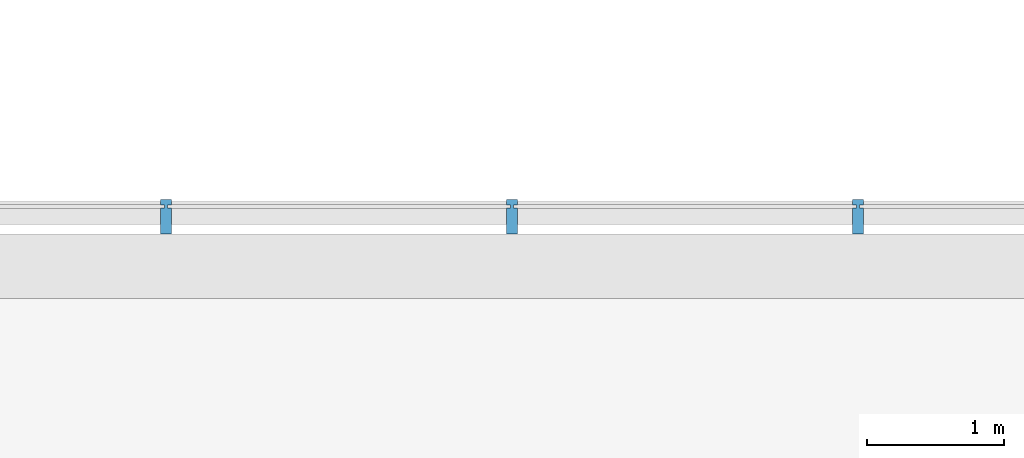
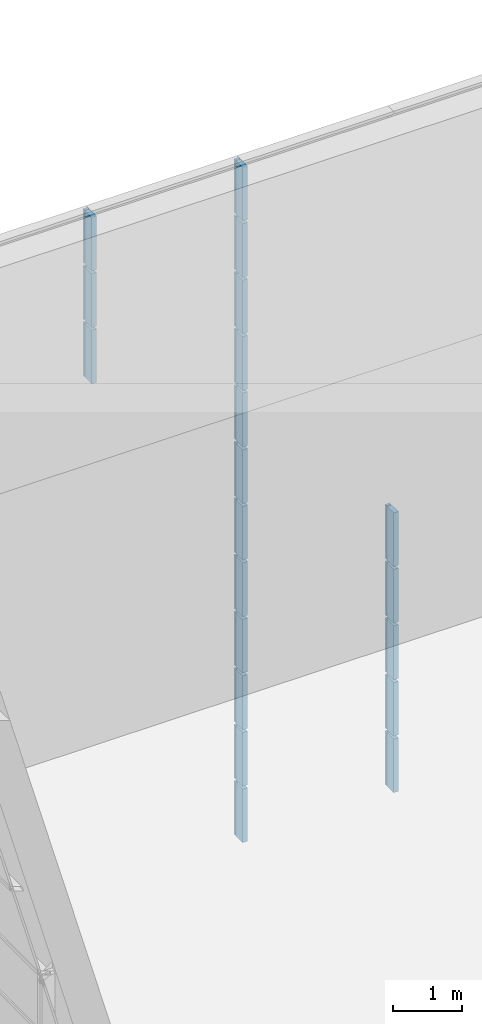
# One storey, part 86 of 105: 20 building element parts, 4 elements without a shape of their own.
"""IFC4 building model written with IfcOpenShell, lengths in millimetres."""

from ifc_helpers import new_model, entity, si_unit, converted_unit, derived_unit, direction, frame, origin_with_axes, place, context, subcontext, project, spatial, triangles, material, element, aggregate, save


model = new_model("IFC4")

# Units and contexts
model_context = context("Model", 3, precision=1e-05, world=origin_with_axes(), true_north=direction((0.0, 1.0)))
body_context = subcontext(model_context, "Body", "Model", "MODEL_VIEW")
ifc_project = project(units=[si_unit("LENGTHUNIT", "METRE", prefix="MILLI"), si_unit("AREAUNIT", "SQUARE_METRE"), si_unit("VOLUMEUNIT", "CUBIC_METRE"), converted_unit("PLANEANGLEUNIT", "DEGREE", entity("IfcLengthMeasure", 0.017453), si_unit("PLANEANGLEUNIT", "RADIAN"), dimensions=[0, 0, 0, 0, 0, 0, 0]), si_unit("SOLIDANGLEUNIT", "STERADIAN"), si_unit("MASSUNIT", "GRAM"), si_unit("TIMEUNIT", "SECOND"), si_unit("THERMODYNAMICTEMPERATUREUNIT", "DEGREE_CELSIUS"), si_unit("LUMINOUSINTENSITYUNIT", "LUMEN"), si_unit("POWERUNIT", "WATT"), derived_unit("THERMALTRANSMITTANCEUNIT", [(si_unit("POWERUNIT", "WATT"), 1), (si_unit("THERMODYNAMICTEMPERATUREUNIT", "KELVIN"), -1), (si_unit("AREAUNIT", "SQUARE_METRE"), -1)])], contexts=[model_context])

# Site, building, storey
site_placement = place(None, origin_with_axes())
site = spatial("IfcSite", under=ifc_project, at=site_placement, Name="Default Site", CompositionType="ELEMENT")
building_placement = place(site_placement, origin_with_axes())
building = spatial("IfcBuilding", under=site, at=building_placement, Name="Default Building", CompositionType="ELEMENT")
storey_placement = place(building_placement, origin_with_axes())
storey = spatial("IfcBuildingStorey", under=building, at=storey_placement, Name="OG - Story", CompositionType="ELEMENT", Elevation=0.0)

# Curtain wall, building element parts
curtain_wall_1_placement = place(storey_placement, origin_with_axes())
curtain_wall_1 = element("IfcCurtainWall", 1, at=curtain_wall_1_placement, inside=storey, Name="Fassade-004", PredefinedType="NOTDEFINED")
ifc_material = material(Name="Blech")
building_element_part_1_placement = place(curtain_wall_1_placement, frame((33014.549222, -4389.262838, 0.0), z_axis=(0.0, 0.0, 1.0), x_axis=(1.0, 0.0, 0.0)))
building_element_part_1 = element("IfcBuildingElementPart", 2, at=building_element_part_1_placement, material=ifc_material, Name="Blech", PredefinedType="NOTDEFINED", context=body_context, shape_type="Tessellation", body=[
    triangles([(6355.789, -9.999, 975.0), (6355.789, -199.999, 975.0), (6325.789, -9.999, 975.0), (6305.789, -9.999, 975.0), (6325.789, 10.0, 975.0), (6355.789, 50.0, 975.0), (6355.789, 10.0, 975.0), (6275.789, -199.999, 975.0), (6275.789, -9.999, 975.0), (6305.789, 10.0, 975.0), (6275.789, 10.0, 975.0), (6275.789, 50.0, 975.0), (6325.789, -9.999, 25.0), (6325.789, 10.0, 25.0), (6355.789, 10.0, 25.0), (6355.789, 50.0, 25.0), (6275.789, 50.0, 25.0), (6275.789, 10.0, 25.0), (6305.789, 10.0, 25.0), (6305.789, -9.999, 25.0), (6275.789, -9.999, 25.0), (6275.789, -199.999, 25.0), (6355.789, -199.999, 25.0), (6355.789, -9.999, 25.0)], [[1, 2, 3], [3, 2, 4], [3, 4, 5], [5, 4, 6], [5, 6, 7], [8, 9, 4], [8, 4, 2], [6, 4, 10], [6, 10, 11], [6, 11, 12], [3, 13, 14], [3, 14, 5], [5, 14, 15], [5, 15, 7], [15, 16, 6], [15, 6, 7], [12, 6, 16], [12, 16, 17], [18, 11, 12], [18, 12, 17], [11, 18, 19], [11, 19, 10], [4, 10, 19], [4, 19, 20], [9, 4, 20], [9, 20, 21], [9, 21, 22], [9, 22, 8], [2, 8, 22], [2, 22, 23], [1, 2, 23], [1, 23, 24], [1, 24, 13], [1, 13, 3], [15, 16, 14], [14, 16, 19], [14, 19, 13], [13, 19, 23], [13, 23, 24], [17, 18, 19], [17, 19, 16], [23, 19, 20], [23, 20, 21], [23, 21, 22]], closed=False),
])
building_element_part_2_placement = place(curtain_wall_1_placement, frame((33014.549222, -4389.262838, 0.0), z_axis=(0.0, 0.0, 1.0), x_axis=(1.0, 0.0, 0.0)))
building_element_part_2 = element("IfcBuildingElementPart", 3, at=building_element_part_2_placement, material=ifc_material, Name="Blech", PredefinedType="NOTDEFINED", context=body_context, shape_type="Tessellation", body=[
    triangles([(8882.105, -9.999, 975.0), (8882.105, -199.999, 975.0), (8852.105, -9.999, 975.0), (8832.105, -9.999, 975.0), (8852.105, 10.0, 975.0), (8882.105, 50.0, 975.0), (8882.105, 10.0, 975.0), (8802.105, -199.999, 975.0), (8802.105, -9.999, 975.0), (8832.105, 10.0, 975.0), (8802.105, 10.0, 975.0), (8802.105, 50.0, 975.0), (8852.105, -9.999, 25.0), (8852.105, 10.0, 25.0), (8882.105, 10.0, 25.0), (8882.105, 50.0, 25.0), (8802.105, 50.0, 25.0), (8802.105, 10.0, 25.0), (8832.105, 10.0, 25.0), (8832.105, -9.999, 25.0), (8802.105, -9.999, 25.0), (8802.105, -199.999, 25.0), (8882.105, -199.999, 25.0), (8882.105, -9.999, 25.0)], [[1, 2, 3], [3, 2, 4], [3, 4, 5], [5, 4, 6], [5, 6, 7], [8, 9, 4], [8, 4, 2], [6, 4, 10], [6, 10, 11], [6, 11, 12], [3, 13, 14], [3, 14, 5], [5, 14, 15], [5, 15, 7], [15, 16, 6], [15, 6, 7], [12, 6, 16], [12, 16, 17], [18, 11, 12], [18, 12, 17], [11, 18, 19], [11, 19, 10], [4, 10, 19], [4, 19, 20], [9, 4, 20], [9, 20, 21], [9, 21, 22], [9, 22, 8], [2, 8, 22], [2, 22, 23], [1, 2, 23], [1, 23, 24], [1, 24, 13], [1, 13, 3], [15, 16, 14], [14, 16, 19], [14, 19, 13], [13, 19, 23], [13, 23, 24], [17, 18, 19], [17, 19, 16], [23, 19, 20], [23, 20, 21], [23, 21, 22]], closed=False),
])
building_element_part_3_placement = place(curtain_wall_1_placement, frame((33014.549222, -4389.262838, 0.0), z_axis=(0.0, 0.0, 1.0), x_axis=(1.0, 0.0, 0.0)))
building_element_part_3 = element("IfcBuildingElementPart", 4, at=building_element_part_3_placement, material=ifc_material, Name="Blech", PredefinedType="NOTDEFINED", context=body_context, shape_type="Tessellation", body=[
    triangles([(6355.789, -9.999, 1975.0), (6355.789, -199.999, 1975.0), (6325.789, -9.999, 1975.0), (6305.789, -9.999, 1975.0), (6325.789, 10.0, 1975.0), (6355.789, 50.0, 1975.0), (6355.789, 10.0, 1975.0), (6275.789, -199.999, 1975.0), (6275.789, -9.999, 1975.0), (6305.789, 10.0, 1975.0), (6275.789, 10.0, 1975.0), (6275.789, 50.0, 1975.0), (6325.789, -9.999, 1025.0), (6325.789, 10.0, 1025.0), (6355.789, 10.0, 1025.0), (6355.789, 50.0, 1025.0), (6275.789, 50.0, 1025.0), (6275.789, 10.0, 1025.0), (6305.789, 10.0, 1025.0), (6305.789, -9.999, 1025.0), (6275.789, -9.999, 1025.0), (6275.789, -199.999, 1025.0), (6355.789, -199.999, 1025.0), (6355.789, -9.999, 1025.0)], [[1, 2, 3], [3, 2, 4], [3, 4, 5], [5, 4, 6], [5, 6, 7], [8, 9, 4], [8, 4, 2], [6, 4, 10], [6, 10, 11], [6, 11, 12], [3, 13, 14], [3, 14, 5], [5, 14, 15], [5, 15, 7], [15, 16, 6], [15, 6, 7], [12, 6, 16], [12, 16, 17], [18, 11, 12], [18, 12, 17], [11, 18, 19], [11, 19, 10], [4, 10, 19], [4, 19, 20], [9, 4, 20], [9, 20, 21], [9, 21, 22], [9, 22, 8], [2, 8, 22], [2, 22, 23], [1, 2, 23], [1, 23, 24], [1, 24, 13], [1, 13, 3], [15, 16, 14], [14, 16, 19], [14, 19, 13], [13, 19, 23], [13, 23, 24], [17, 18, 19], [17, 19, 16], [23, 19, 20], [23, 20, 21], [23, 21, 22]], closed=False),
])
building_element_part_4_placement = place(curtain_wall_1_placement, frame((33014.549222, -4389.262838, 0.0), z_axis=(0.0, 0.0, 1.0), x_axis=(1.0, 0.0, 0.0)))
building_element_part_4 = element("IfcBuildingElementPart", 5, at=building_element_part_4_placement, material=ifc_material, Name="Blech", PredefinedType="NOTDEFINED", context=body_context, shape_type="Tessellation", body=[
    triangles([(8882.105, -9.999, 1975.0), (8882.105, -199.999, 1975.0), (8852.105, -9.999, 1975.0), (8832.105, -9.999, 1975.0), (8852.105, 10.0, 1975.0), (8882.105, 50.0, 1975.0), (8882.105, 10.0, 1975.0), (8802.105, -199.999, 1975.0), (8802.105, -9.999, 1975.0), (8832.105, 10.0, 1975.0), (8802.105, 10.0, 1975.0), (8802.105, 50.0, 1975.0), (8852.105, -9.999, 1025.0), (8852.105, 10.0, 1025.0), (8882.105, 10.0, 1025.0), (8882.105, 50.0, 1025.0), (8802.105, 50.0, 1025.0), (8802.105, 10.0, 1025.0), (8832.105, 10.0, 1025.0), (8832.105, -9.999, 1025.0), (8802.105, -9.999, 1025.0), (8802.105, -199.999, 1025.0), (8882.105, -199.999, 1025.0), (8882.105, -9.999, 1025.0)], [[1, 2, 3], [3, 2, 4], [3, 4, 5], [5, 4, 6], [5, 6, 7], [8, 9, 4], [8, 4, 2], [6, 4, 10], [6, 10, 11], [6, 11, 12], [3, 13, 14], [3, 14, 5], [5, 14, 15], [5, 15, 7], [15, 16, 6], [15, 6, 7], [12, 6, 16], [12, 16, 17], [18, 11, 12], [18, 12, 17], [11, 18, 19], [11, 19, 10], [4, 10, 19], [4, 19, 20], [9, 4, 20], [9, 20, 21], [9, 21, 22], [9, 22, 8], [2, 8, 22], [2, 22, 23], [1, 2, 23], [1, 23, 24], [1, 24, 13], [1, 13, 3], [15, 16, 14], [14, 16, 19], [14, 19, 13], [13, 19, 23], [13, 23, 24], [17, 18, 19], [17, 19, 16], [23, 19, 20], [23, 20, 21], [23, 21, 22]], closed=False),
])
building_element_part_5_placement = place(curtain_wall_1_placement, frame((33014.549222, -4389.262838, 0.0), z_axis=(0.0, 0.0, 1.0), x_axis=(1.0, 0.0, 0.0)))
building_element_part_5 = element("IfcBuildingElementPart", 6, at=building_element_part_5_placement, material=ifc_material, Name="Blech", PredefinedType="NOTDEFINED", context=body_context, shape_type="Tessellation", body=[
    triangles([(6355.789, -9.999, 2975.0), (6355.789, -199.999, 2975.0), (6325.789, -9.999, 2975.0), (6305.789, -9.999, 2975.0), (6325.789, 10.0, 2975.0), (6355.789, 50.0, 2975.0), (6355.789, 10.0, 2975.0), (6275.789, -199.999, 2975.0), (6275.789, -9.999, 2975.0), (6305.789, 10.0, 2975.0), (6275.789, 10.0, 2975.0), (6275.789, 50.0, 2975.0), (6325.789, -9.999, 2025.0), (6325.789, 10.0, 2025.0), (6355.789, 10.0, 2025.0), (6355.789, 50.0, 2025.0), (6275.789, 50.0, 2025.0), (6275.789, 10.0, 2025.0), (6305.789, 10.0, 2025.0), (6305.789, -9.999, 2025.0), (6275.789, -9.999, 2025.0), (6275.789, -199.999, 2025.0), (6355.789, -199.999, 2025.0), (6355.789, -9.999, 2025.0)], [[1, 2, 3], [3, 2, 4], [3, 4, 5], [5, 4, 6], [5, 6, 7], [8, 9, 4], [8, 4, 2], [6, 4, 10], [6, 10, 11], [6, 11, 12], [3, 13, 14], [3, 14, 5], [5, 14, 15], [5, 15, 7], [15, 16, 6], [15, 6, 7], [12, 6, 16], [12, 16, 17], [18, 11, 12], [18, 12, 17], [11, 18, 19], [11, 19, 10], [4, 10, 19], [4, 19, 20], [9, 4, 20], [9, 20, 21], [9, 21, 22], [9, 22, 8], [2, 8, 22], [2, 22, 23], [1, 2, 23], [1, 23, 24], [1, 24, 13], [1, 13, 3], [15, 16, 14], [14, 16, 19], [14, 19, 13], [13, 19, 23], [13, 23, 24], [17, 18, 19], [17, 19, 16], [23, 19, 20], [23, 20, 21], [23, 21, 22]], closed=False),
])
building_element_part_6_placement = place(curtain_wall_1_placement, frame((33014.549222, -4389.262838, 0.0), z_axis=(0.0, 0.0, 1.0), x_axis=(1.0, 0.0, 0.0)))
building_element_part_6 = element("IfcBuildingElementPart", 7, at=building_element_part_6_placement, material=ifc_material, Name="Blech", PredefinedType="NOTDEFINED", context=body_context, shape_type="Tessellation", body=[
    triangles([(8882.105, -9.999, 2975.0), (8882.105, -199.999, 2975.0), (8852.105, -9.999, 2975.0), (8832.105, -9.999, 2975.0), (8852.105, 10.0, 2975.0), (8882.105, 50.0, 2975.0), (8882.105, 10.0, 2975.0), (8802.105, -199.999, 2975.0), (8802.105, -9.999, 2975.0), (8832.105, 10.0, 2975.0), (8802.105, 10.0, 2975.0), (8802.105, 50.0, 2975.0), (8852.105, -9.999, 2025.0), (8852.105, 10.0, 2025.0), (8882.105, 10.0, 2025.0), (8882.105, 50.0, 2025.0), (8802.105, 50.0, 2025.0), (8802.105, 10.0, 2025.0), (8832.105, 10.0, 2025.0), (8832.105, -9.999, 2025.0), (8802.105, -9.999, 2025.0), (8802.105, -199.999, 2025.0), (8882.105, -199.999, 2025.0), (8882.105, -9.999, 2025.0)], [[1, 2, 3], [3, 2, 4], [3, 4, 5], [5, 4, 6], [5, 6, 7], [8, 9, 4], [8, 4, 2], [6, 4, 10], [6, 10, 11], [6, 11, 12], [3, 13, 14], [3, 14, 5], [5, 14, 15], [5, 15, 7], [15, 16, 6], [15, 6, 7], [12, 6, 16], [12, 16, 17], [18, 11, 12], [18, 12, 17], [11, 18, 19], [11, 19, 10], [4, 10, 19], [4, 19, 20], [9, 4, 20], [9, 20, 21], [9, 21, 22], [9, 22, 8], [2, 8, 22], [2, 22, 23], [1, 2, 23], [1, 23, 24], [1, 24, 13], [1, 13, 3], [15, 16, 14], [14, 16, 19], [14, 19, 13], [13, 19, 23], [13, 23, 24], [17, 18, 19], [17, 19, 16], [23, 19, 20], [23, 20, 21], [23, 21, 22]], closed=False),
])
aggregate(curtain_wall_1, [building_element_part_1, building_element_part_2, building_element_part_3, building_element_part_4, building_element_part_5, building_element_part_6])

curtain_wall_2_placement = place(storey_placement, origin_with_axes())
curtain_wall_2 = element("IfcCurtainWall", 8, at=curtain_wall_2_placement, inside=storey, Name="Fassade-004", PredefinedType="NOTDEFINED")
building_element_part_7_placement = place(curtain_wall_2_placement, frame((33014.549222, -4389.262838, 3000.0), z_axis=(0.0, 0.0, 1.0), x_axis=(1.0, 0.0, 0.0)))
building_element_part_7 = element("IfcBuildingElementPart", 9, at=building_element_part_7_placement, material=ifc_material, Name="Blech", PredefinedType="NOTDEFINED", context=body_context, shape_type="Tessellation", body=[
    triangles([(6355.789, -9.999, 975.0), (6355.789, -199.999, 975.0), (6325.789, -9.999, 975.0), (6305.789, -9.999, 975.0), (6325.789, 10.0, 975.0), (6355.789, 50.0, 975.0), (6355.789, 10.0, 975.0), (6275.789, -199.999, 975.0), (6275.789, -9.999, 975.0), (6305.789, 10.0, 975.0), (6275.789, 10.0, 975.0), (6275.789, 50.0, 975.0), (6325.789, -9.999, 25.0), (6325.789, 10.0, 25.0), (6355.789, 10.0, 25.0), (6355.789, 50.0, 25.0), (6275.789, 50.0, 25.0), (6275.789, 10.0, 25.0), (6305.789, 10.0, 25.0), (6305.789, -9.999, 25.0), (6275.789, -9.999, 25.0), (6275.789, -199.999, 25.0), (6355.789, -199.999, 25.0), (6355.789, -9.999, 25.0)], [[1, 2, 3], [3, 2, 4], [3, 4, 5], [5, 4, 6], [5, 6, 7], [8, 9, 4], [8, 4, 2], [6, 4, 10], [6, 10, 11], [6, 11, 12], [3, 13, 14], [3, 14, 5], [5, 14, 15], [5, 15, 7], [15, 16, 6], [15, 6, 7], [12, 6, 16], [12, 16, 17], [18, 11, 12], [18, 12, 17], [11, 18, 19], [11, 19, 10], [4, 10, 19], [4, 19, 20], [9, 4, 20], [9, 20, 21], [9, 21, 22], [9, 22, 8], [2, 8, 22], [2, 22, 23], [1, 2, 23], [1, 23, 24], [1, 24, 13], [1, 13, 3], [15, 16, 14], [14, 16, 19], [14, 19, 13], [13, 19, 23], [13, 23, 24], [17, 18, 19], [17, 19, 16], [23, 19, 20], [23, 20, 21], [23, 21, 22]], closed=False),
])
building_element_part_8_placement = place(curtain_wall_2_placement, frame((33014.549222, -4389.262838, 3000.0), z_axis=(0.0, 0.0, 1.0), x_axis=(1.0, 0.0, 0.0)))
building_element_part_8 = element("IfcBuildingElementPart", 10, at=building_element_part_8_placement, material=ifc_material, Name="Blech", PredefinedType="NOTDEFINED", context=body_context, shape_type="Tessellation", body=[
    triangles([(8882.105, -9.999, 975.0), (8882.105, -199.999, 975.0), (8852.105, -9.999, 975.0), (8832.105, -9.999, 975.0), (8852.105, 10.0, 975.0), (8882.105, 50.0, 975.0), (8882.105, 10.0, 975.0), (8802.105, -199.999, 975.0), (8802.105, -9.999, 975.0), (8832.105, 10.0, 975.0), (8802.105, 10.0, 975.0), (8802.105, 50.0, 975.0), (8852.105, -9.999, 25.0), (8852.105, 10.0, 25.0), (8882.105, 10.0, 25.0), (8882.105, 50.0, 25.0), (8802.105, 50.0, 25.0), (8802.105, 10.0, 25.0), (8832.105, 10.0, 25.0), (8832.105, -9.999, 25.0), (8802.105, -9.999, 25.0), (8802.105, -199.999, 25.0), (8882.105, -199.999, 25.0), (8882.105, -9.999, 25.0)], [[1, 2, 3], [3, 2, 4], [3, 4, 5], [5, 4, 6], [5, 6, 7], [8, 9, 4], [8, 4, 2], [6, 4, 10], [6, 10, 11], [6, 11, 12], [3, 13, 14], [3, 14, 5], [5, 14, 15], [5, 15, 7], [15, 16, 6], [15, 6, 7], [12, 6, 16], [12, 16, 17], [18, 11, 12], [18, 12, 17], [11, 18, 19], [11, 19, 10], [4, 10, 19], [4, 19, 20], [9, 4, 20], [9, 20, 21], [9, 21, 22], [9, 22, 8], [2, 8, 22], [2, 22, 23], [1, 2, 23], [1, 23, 24], [1, 24, 13], [1, 13, 3], [15, 16, 14], [14, 16, 19], [14, 19, 13], [13, 19, 23], [13, 23, 24], [17, 18, 19], [17, 19, 16], [23, 19, 20], [23, 20, 21], [23, 21, 22]], closed=False),
])
building_element_part_9_placement = place(curtain_wall_2_placement, frame((33014.549222, -4389.262838, 3000.0), z_axis=(0.0, 0.0, 1.0), x_axis=(1.0, 0.0, 0.0)))
building_element_part_9 = element("IfcBuildingElementPart", 11, at=building_element_part_9_placement, material=ifc_material, Name="Blech", PredefinedType="NOTDEFINED", context=body_context, shape_type="Tessellation", body=[
    triangles([(6355.789, -9.999, 1975.0), (6355.789, -199.999, 1975.0), (6325.789, -9.999, 1975.0), (6305.789, -9.999, 1975.0), (6325.789, 10.0, 1975.0), (6355.789, 50.0, 1975.0), (6355.789, 10.0, 1975.0), (6275.789, -199.999, 1975.0), (6275.789, -9.999, 1975.0), (6305.789, 10.0, 1975.0), (6275.789, 10.0, 1975.0), (6275.789, 50.0, 1975.0), (6325.789, -9.999, 1025.0), (6325.789, 10.0, 1025.0), (6355.789, 10.0, 1025.0), (6355.789, 50.0, 1025.0), (6275.789, 50.0, 1025.0), (6275.789, 10.0, 1025.0), (6305.789, 10.0, 1025.0), (6305.789, -9.999, 1025.0), (6275.789, -9.999, 1025.0), (6275.789, -199.999, 1025.0), (6355.789, -199.999, 1025.0), (6355.789, -9.999, 1025.0)], [[1, 2, 3], [3, 2, 4], [3, 4, 5], [5, 4, 6], [5, 6, 7], [8, 9, 4], [8, 4, 2], [6, 4, 10], [6, 10, 11], [6, 11, 12], [3, 13, 14], [3, 14, 5], [5, 14, 15], [5, 15, 7], [15, 16, 6], [15, 6, 7], [12, 6, 16], [12, 16, 17], [18, 11, 12], [18, 12, 17], [11, 18, 19], [11, 19, 10], [4, 10, 19], [4, 19, 20], [9, 4, 20], [9, 20, 21], [9, 21, 22], [9, 22, 8], [2, 8, 22], [2, 22, 23], [1, 2, 23], [1, 23, 24], [1, 24, 13], [1, 13, 3], [15, 16, 14], [14, 16, 19], [14, 19, 13], [13, 19, 23], [13, 23, 24], [17, 18, 19], [17, 19, 16], [23, 19, 20], [23, 20, 21], [23, 21, 22]], closed=False),
])
building_element_part_10_placement = place(curtain_wall_2_placement, frame((33014.549222, -4389.262838, 3000.0), z_axis=(0.0, 0.0, 1.0), x_axis=(1.0, 0.0, 0.0)))
building_element_part_10 = element("IfcBuildingElementPart", 12, at=building_element_part_10_placement, material=ifc_material, Name="Blech", PredefinedType="NOTDEFINED", context=body_context, shape_type="Tessellation", body=[
    triangles([(8882.105, -9.999, 1975.0), (8882.105, -199.999, 1975.0), (8852.105, -9.999, 1975.0), (8832.105, -9.999, 1975.0), (8852.105, 10.0, 1975.0), (8882.105, 50.0, 1975.0), (8882.105, 10.0, 1975.0), (8802.105, -199.999, 1975.0), (8802.105, -9.999, 1975.0), (8832.105, 10.0, 1975.0), (8802.105, 10.0, 1975.0), (8802.105, 50.0, 1975.0), (8852.105, -9.999, 1025.0), (8852.105, 10.0, 1025.0), (8882.105, 10.0, 1025.0), (8882.105, 50.0, 1025.0), (8802.105, 50.0, 1025.0), (8802.105, 10.0, 1025.0), (8832.105, 10.0, 1025.0), (8832.105, -9.999, 1025.0), (8802.105, -9.999, 1025.0), (8802.105, -199.999, 1025.0), (8882.105, -199.999, 1025.0), (8882.105, -9.999, 1025.0)], [[1, 2, 3], [3, 2, 4], [3, 4, 5], [5, 4, 6], [5, 6, 7], [8, 9, 4], [8, 4, 2], [6, 4, 10], [6, 10, 11], [6, 11, 12], [3, 13, 14], [3, 14, 5], [5, 14, 15], [5, 15, 7], [15, 16, 6], [15, 6, 7], [12, 6, 16], [12, 16, 17], [18, 11, 12], [18, 12, 17], [11, 18, 19], [11, 19, 10], [4, 10, 19], [4, 19, 20], [9, 4, 20], [9, 20, 21], [9, 21, 22], [9, 22, 8], [2, 8, 22], [2, 22, 23], [1, 2, 23], [1, 23, 24], [1, 24, 13], [1, 13, 3], [15, 16, 14], [14, 16, 19], [14, 19, 13], [13, 19, 23], [13, 23, 24], [17, 18, 19], [17, 19, 16], [23, 19, 20], [23, 20, 21], [23, 21, 22]], closed=False),
])
building_element_part_11_placement = place(curtain_wall_2_placement, frame((33014.549222, -4389.262838, 3000.0), z_axis=(0.0, 0.0, 1.0), x_axis=(1.0, 0.0, 0.0)))
building_element_part_11 = element("IfcBuildingElementPart", 13, at=building_element_part_11_placement, material=ifc_material, Name="Blech", PredefinedType="NOTDEFINED", context=body_context, shape_type="Tessellation", body=[
    triangles([(6355.789, -9.999, 2975.0), (6355.789, -199.999, 2975.0), (6325.789, -9.999, 2975.0), (6305.789, -9.999, 2975.0), (6325.789, 10.0, 2975.0), (6355.789, 50.0, 2975.0), (6355.789, 10.0, 2975.0), (6275.789, -199.999, 2975.0), (6275.789, -9.999, 2975.0), (6305.789, 10.0, 2975.0), (6275.789, 10.0, 2975.0), (6275.789, 50.0, 2975.0), (6325.789, -9.999, 2025.0), (6325.789, 10.0, 2025.0), (6355.789, 10.0, 2025.0), (6355.789, 50.0, 2025.0), (6275.789, 50.0, 2025.0), (6275.789, 10.0, 2025.0), (6305.789, 10.0, 2025.0), (6305.789, -9.999, 2025.0), (6275.789, -9.999, 2025.0), (6275.789, -199.999, 2025.0), (6355.789, -199.999, 2025.0), (6355.789, -9.999, 2025.0)], [[1, 2, 3], [3, 2, 4], [3, 4, 5], [5, 4, 6], [5, 6, 7], [8, 9, 4], [8, 4, 2], [6, 4, 10], [6, 10, 11], [6, 11, 12], [3, 13, 14], [3, 14, 5], [5, 14, 15], [5, 15, 7], [15, 16, 6], [15, 6, 7], [12, 6, 16], [12, 16, 17], [18, 11, 12], [18, 12, 17], [11, 18, 19], [11, 19, 10], [4, 10, 19], [4, 19, 20], [9, 4, 20], [9, 20, 21], [9, 21, 22], [9, 22, 8], [2, 8, 22], [2, 22, 23], [1, 2, 23], [1, 23, 24], [1, 24, 13], [1, 13, 3], [15, 16, 14], [14, 16, 19], [14, 19, 13], [13, 19, 23], [13, 23, 24], [17, 18, 19], [17, 19, 16], [23, 19, 20], [23, 20, 21], [23, 21, 22]], closed=False),
])
aggregate(curtain_wall_2, [building_element_part_7, building_element_part_8, building_element_part_9, building_element_part_10, building_element_part_11])

curtain_wall_3_placement = place(storey_placement, origin_with_axes())
curtain_wall_3 = element("IfcCurtainWall", 14, at=curtain_wall_3_placement, inside=storey, Name="Fassade-004", PredefinedType="NOTDEFINED")
building_element_part_12_placement = place(curtain_wall_3_placement, frame((33014.549222, -4389.262838, 6000.0), z_axis=(0.0, 0.0, 1.0), x_axis=(1.0, 0.0, 0.0)))
building_element_part_12 = element("IfcBuildingElementPart", 15, at=building_element_part_12_placement, material=ifc_material, Name="Blech", PredefinedType="NOTDEFINED", context=body_context, shape_type="Tessellation", body=[
    triangles([(6355.789, -9.999, 975.0), (6355.789, -199.999, 975.0), (6325.789, -9.999, 975.0), (6305.789, -9.999, 975.0), (6325.789, 10.0, 975.0), (6355.789, 50.0, 975.0), (6355.789, 10.0, 975.0), (6275.789, -199.999, 975.0), (6275.789, -9.999, 975.0), (6305.789, 10.0, 975.0), (6275.789, 10.0, 975.0), (6275.789, 50.0, 975.0), (6325.789, -9.999, 25.0), (6325.789, 10.0, 25.0), (6355.789, 10.0, 25.0), (6355.789, 50.0, 25.0), (6275.789, 50.0, 25.0), (6275.789, 10.0, 25.0), (6305.789, 10.0, 25.0), (6305.789, -9.999, 25.0), (6275.789, -9.999, 25.0), (6275.789, -199.999, 25.0), (6355.789, -199.999, 25.0), (6355.789, -9.999, 25.0)], [[1, 2, 3], [3, 2, 4], [3, 4, 5], [5, 4, 6], [5, 6, 7], [8, 9, 4], [8, 4, 2], [6, 4, 10], [6, 10, 11], [6, 11, 12], [3, 13, 14], [3, 14, 5], [5, 14, 15], [5, 15, 7], [15, 16, 6], [15, 6, 7], [12, 6, 16], [12, 16, 17], [18, 11, 12], [18, 12, 17], [11, 18, 19], [11, 19, 10], [4, 10, 19], [4, 19, 20], [9, 4, 20], [9, 20, 21], [9, 21, 22], [9, 22, 8], [2, 8, 22], [2, 22, 23], [1, 2, 23], [1, 23, 24], [1, 24, 13], [1, 13, 3], [15, 16, 14], [14, 16, 19], [14, 19, 13], [13, 19, 23], [13, 23, 24], [17, 18, 19], [17, 19, 16], [23, 19, 20], [23, 20, 21], [23, 21, 22]], closed=False),
])
building_element_part_13_placement = place(curtain_wall_3_placement, frame((33014.549222, -4389.262838, 6000.0), z_axis=(0.0, 0.0, 1.0), x_axis=(1.0, 0.0, 0.0)))
building_element_part_13 = element("IfcBuildingElementPart", 16, at=building_element_part_13_placement, material=ifc_material, Name="Blech", PredefinedType="NOTDEFINED", context=body_context, shape_type="Tessellation", body=[
    triangles([(6355.789, -9.999, 1975.0), (6355.789, -199.999, 1975.0), (6325.789, -9.999, 1975.0), (6305.789, -9.999, 1975.0), (6325.789, 10.0, 1975.0), (6355.789, 50.0, 1975.0), (6355.789, 10.0, 1975.0), (6275.789, -199.999, 1975.0), (6275.789, -9.999, 1975.0), (6305.789, 10.0, 1975.0), (6275.789, 10.0, 1975.0), (6275.789, 50.0, 1975.0), (6325.789, -9.999, 1025.0), (6325.789, 10.0, 1025.0), (6355.789, 10.0, 1025.0), (6355.789, 50.0, 1025.0), (6275.789, 50.0, 1025.0), (6275.789, 10.0, 1025.0), (6305.789, 10.0, 1025.0), (6305.789, -9.999, 1025.0), (6275.789, -9.999, 1025.0), (6275.789, -199.999, 1025.0), (6355.789, -199.999, 1025.0), (6355.789, -9.999, 1025.0)], [[1, 2, 3], [3, 2, 4], [3, 4, 5], [5, 4, 6], [5, 6, 7], [8, 9, 4], [8, 4, 2], [6, 4, 10], [6, 10, 11], [6, 11, 12], [3, 13, 14], [3, 14, 5], [5, 14, 15], [5, 15, 7], [15, 16, 6], [15, 6, 7], [12, 6, 16], [12, 16, 17], [18, 11, 12], [18, 12, 17], [11, 18, 19], [11, 19, 10], [4, 10, 19], [4, 19, 20], [9, 4, 20], [9, 20, 21], [9, 21, 22], [9, 22, 8], [2, 8, 22], [2, 22, 23], [1, 2, 23], [1, 23, 24], [1, 24, 13], [1, 13, 3], [15, 16, 14], [14, 16, 19], [14, 19, 13], [13, 19, 23], [13, 23, 24], [17, 18, 19], [17, 19, 16], [23, 19, 20], [23, 20, 21], [23, 21, 22]], closed=False),
])
building_element_part_14_placement = place(curtain_wall_3_placement, frame((33014.549222, -4389.262838, 6000.0), z_axis=(0.0, 0.0, 1.0), x_axis=(1.0, 0.0, 0.0)))
building_element_part_14 = element("IfcBuildingElementPart", 17, at=building_element_part_14_placement, material=ifc_material, Name="Blech", PredefinedType="NOTDEFINED", context=body_context, shape_type="Tessellation", body=[
    triangles([(6355.789, -9.999, 2975.0), (6355.789, -199.999, 2975.0), (6325.789, -9.999, 2975.0), (6305.789, -9.999, 2975.0), (6325.789, 10.0, 2975.0), (6355.789, 50.0, 2975.0), (6355.789, 10.0, 2975.0), (6275.789, -199.999, 2975.0), (6275.789, -9.999, 2975.0), (6305.789, 10.0, 2975.0), (6275.789, 10.0, 2975.0), (6275.789, 50.0, 2975.0), (6325.789, -9.999, 2025.0), (6325.789, 10.0, 2025.0), (6355.789, 10.0, 2025.0), (6355.789, 50.0, 2025.0), (6275.789, 50.0, 2025.0), (6275.789, 10.0, 2025.0), (6305.789, 10.0, 2025.0), (6305.789, -9.999, 2025.0), (6275.789, -9.999, 2025.0), (6275.789, -199.999, 2025.0), (6355.789, -199.999, 2025.0), (6355.789, -9.999, 2025.0)], [[1, 2, 3], [3, 2, 4], [3, 4, 5], [5, 4, 6], [5, 6, 7], [8, 9, 4], [8, 4, 2], [6, 4, 10], [6, 10, 11], [6, 11, 12], [3, 13, 14], [3, 14, 5], [5, 14, 15], [5, 15, 7], [15, 16, 6], [15, 6, 7], [12, 6, 16], [12, 16, 17], [18, 11, 12], [18, 12, 17], [11, 18, 19], [11, 19, 10], [4, 10, 19], [4, 19, 20], [9, 4, 20], [9, 20, 21], [9, 21, 22], [9, 22, 8], [2, 8, 22], [2, 22, 23], [1, 2, 23], [1, 23, 24], [1, 24, 13], [1, 13, 3], [15, 16, 14], [14, 16, 19], [14, 19, 13], [13, 19, 23], [13, 23, 24], [17, 18, 19], [17, 19, 16], [23, 19, 20], [23, 20, 21], [23, 21, 22]], closed=False),
])
aggregate(curtain_wall_3, [building_element_part_12, building_element_part_13, building_element_part_14])

curtain_wall_4_placement = place(storey_placement, origin_with_axes())
curtain_wall_4 = element("IfcCurtainWall", 18, at=curtain_wall_4_placement, inside=storey, Name="Fassade-004", PredefinedType="NOTDEFINED")
building_element_part_15_placement = place(curtain_wall_4_placement, frame((33014.549222, -4389.262838, 9000.0), z_axis=(0.0, 0.0, 1.0), x_axis=(1.0, 0.0, 0.0)))
building_element_part_15 = element("IfcBuildingElementPart", 19, at=building_element_part_15_placement, material=ifc_material, Name="Blech", PredefinedType="NOTDEFINED", context=body_context, shape_type="Tessellation", body=[
    triangles([(3829.474, -9.999, 975.0), (3829.474, -199.999, 975.0), (3799.474, -9.999, 975.0), (3779.474, -9.999, 975.0), (3799.474, 10.0, 975.0), (3829.474, 50.0, 975.0), (3829.474, 10.0, 975.0), (3749.474, -199.999, 975.0), (3749.474, -9.999, 975.0), (3779.474, 10.0, 975.0), (3749.474, 10.0, 975.0), (3749.474, 50.0, 975.0), (3799.474, -9.999, 25.0), (3799.474, 10.0, 25.0), (3829.474, 10.0, 25.0), (3829.474, 50.0, 25.0), (3749.474, 50.0, 25.0), (3749.474, 10.0, 25.0), (3779.474, 10.0, 25.0), (3779.474, -9.999, 25.0), (3749.474, -9.999, 25.0), (3749.474, -199.999, 25.0), (3829.474, -199.999, 25.0), (3829.474, -9.999, 25.0)], [[1, 2, 3], [3, 2, 4], [3, 4, 5], [5, 4, 6], [5, 6, 7], [8, 9, 4], [8, 4, 2], [6, 4, 10], [6, 10, 11], [6, 11, 12], [3, 13, 14], [3, 14, 5], [5, 14, 15], [5, 15, 7], [15, 16, 6], [15, 6, 7], [12, 6, 16], [12, 16, 17], [18, 11, 12], [18, 12, 17], [11, 18, 19], [11, 19, 10], [4, 10, 19], [4, 19, 20], [9, 4, 20], [9, 20, 21], [9, 21, 22], [9, 22, 8], [2, 8, 22], [2, 22, 23], [1, 2, 23], [1, 23, 24], [1, 24, 13], [1, 13, 3], [15, 16, 14], [14, 16, 19], [14, 19, 13], [13, 19, 23], [13, 23, 24], [17, 18, 19], [17, 19, 16], [23, 19, 20], [23, 20, 21], [23, 21, 22]], closed=False),
])
building_element_part_16_placement = place(curtain_wall_4_placement, frame((33014.549222, -4389.262838, 9000.0), z_axis=(0.0, 0.0, 1.0), x_axis=(1.0, 0.0, 0.0)))
building_element_part_16 = element("IfcBuildingElementPart", 20, at=building_element_part_16_placement, material=ifc_material, Name="Blech", PredefinedType="NOTDEFINED", context=body_context, shape_type="Tessellation", body=[
    triangles([(6355.789, -9.999, 975.0), (6355.789, -199.999, 975.0), (6325.789, -9.999, 975.0), (6305.789, -9.999, 975.0), (6325.789, 10.0, 975.0), (6355.789, 50.0, 975.0), (6355.789, 10.0, 975.0), (6275.789, -199.999, 975.0), (6275.789, -9.999, 975.0), (6305.789, 10.0, 975.0), (6275.789, 10.0, 975.0), (6275.789, 50.0, 975.0), (6325.789, -9.999, 25.0), (6325.789, 10.0, 25.0), (6355.789, 10.0, 25.0), (6355.789, 50.0, 25.0), (6275.789, 50.0, 25.0), (6275.789, 10.0, 25.0), (6305.789, 10.0, 25.0), (6305.789, -9.999, 25.0), (6275.789, -9.999, 25.0), (6275.789, -199.999, 25.0), (6355.789, -199.999, 25.0), (6355.789, -9.999, 25.0)], [[1, 2, 3], [3, 2, 4], [3, 4, 5], [5, 4, 6], [5, 6, 7], [8, 9, 4], [8, 4, 2], [6, 4, 10], [6, 10, 11], [6, 11, 12], [3, 13, 14], [3, 14, 5], [5, 14, 15], [5, 15, 7], [15, 16, 6], [15, 6, 7], [12, 6, 16], [12, 16, 17], [18, 11, 12], [18, 12, 17], [11, 18, 19], [11, 19, 10], [4, 10, 19], [4, 19, 20], [9, 4, 20], [9, 20, 21], [9, 21, 22], [9, 22, 8], [2, 8, 22], [2, 22, 23], [1, 2, 23], [1, 23, 24], [1, 24, 13], [1, 13, 3], [15, 16, 14], [14, 16, 19], [14, 19, 13], [13, 19, 23], [13, 23, 24], [17, 18, 19], [17, 19, 16], [23, 19, 20], [23, 20, 21], [23, 21, 22]], closed=False),
])
building_element_part_17_placement = place(curtain_wall_4_placement, frame((33014.549222, -4389.262838, 9000.0), z_axis=(0.0, 0.0, 1.0), x_axis=(1.0, 0.0, 0.0)))
building_element_part_17 = element("IfcBuildingElementPart", 21, at=building_element_part_17_placement, material=ifc_material, Name="Blech", PredefinedType="NOTDEFINED", context=body_context, shape_type="Tessellation", body=[
    triangles([(3829.474, -9.999, 1975.0), (3829.474, -199.999, 1975.0), (3799.474, -9.999, 1975.0), (3779.474, -9.999, 1975.0), (3799.474, 10.0, 1975.0), (3829.474, 50.0, 1975.0), (3829.474, 10.0, 1975.0), (3749.474, -199.999, 1975.0), (3749.474, -9.999, 1975.0), (3779.474, 10.0, 1975.0), (3749.474, 10.0, 1975.0), (3749.474, 50.0, 1975.0), (3799.474, -9.999, 1025.0), (3799.474, 10.0, 1025.0), (3829.474, 10.0, 1025.0), (3829.474, 50.0, 1025.0), (3749.474, 50.0, 1025.0), (3749.474, 10.0, 1025.0), (3779.474, 10.0, 1025.0), (3779.474, -9.999, 1025.0), (3749.474, -9.999, 1025.0), (3749.474, -199.999, 1025.0), (3829.474, -199.999, 1025.0), (3829.474, -9.999, 1025.0)], [[1, 2, 3], [3, 2, 4], [3, 4, 5], [5, 4, 6], [5, 6, 7], [8, 9, 4], [8, 4, 2], [6, 4, 10], [6, 10, 11], [6, 11, 12], [3, 13, 14], [3, 14, 5], [5, 14, 15], [5, 15, 7], [15, 16, 6], [15, 6, 7], [12, 6, 16], [12, 16, 17], [18, 11, 12], [18, 12, 17], [11, 18, 19], [11, 19, 10], [4, 10, 19], [4, 19, 20], [9, 4, 20], [9, 20, 21], [9, 21, 22], [9, 22, 8], [2, 8, 22], [2, 22, 23], [1, 2, 23], [1, 23, 24], [1, 24, 13], [1, 13, 3], [15, 16, 14], [14, 16, 19], [14, 19, 13], [13, 19, 23], [13, 23, 24], [17, 18, 19], [17, 19, 16], [23, 19, 20], [23, 20, 21], [23, 21, 22]], closed=False),
])
building_element_part_18_placement = place(curtain_wall_4_placement, frame((33014.549222, -4389.262838, 9000.0), z_axis=(0.0, 0.0, 1.0), x_axis=(1.0, 0.0, 0.0)))
building_element_part_18 = element("IfcBuildingElementPart", 22, at=building_element_part_18_placement, material=ifc_material, Name="Blech", PredefinedType="NOTDEFINED", context=body_context, shape_type="Tessellation", body=[
    triangles([(6355.789, -9.999, 1975.0), (6355.789, -199.999, 1975.0), (6325.789, -9.999, 1975.0), (6305.789, -9.999, 1975.0), (6325.789, 10.0, 1975.0), (6355.789, 50.0, 1975.0), (6355.789, 10.0, 1975.0), (6275.789, -199.999, 1975.0), (6275.789, -9.999, 1975.0), (6305.789, 10.0, 1975.0), (6275.789, 10.0, 1975.0), (6275.789, 50.0, 1975.0), (6325.789, -9.999, 1025.0), (6325.789, 10.0, 1025.0), (6355.789, 10.0, 1025.0), (6355.789, 50.0, 1025.0), (6275.789, 50.0, 1025.0), (6275.789, 10.0, 1025.0), (6305.789, 10.0, 1025.0), (6305.789, -9.999, 1025.0), (6275.789, -9.999, 1025.0), (6275.789, -199.999, 1025.0), (6355.789, -199.999, 1025.0), (6355.789, -9.999, 1025.0)], [[1, 2, 3], [3, 2, 4], [3, 4, 5], [5, 4, 6], [5, 6, 7], [8, 9, 4], [8, 4, 2], [6, 4, 10], [6, 10, 11], [6, 11, 12], [3, 13, 14], [3, 14, 5], [5, 14, 15], [5, 15, 7], [15, 16, 6], [15, 6, 7], [12, 6, 16], [12, 16, 17], [18, 11, 12], [18, 12, 17], [11, 18, 19], [11, 19, 10], [4, 10, 19], [4, 19, 20], [9, 4, 20], [9, 20, 21], [9, 21, 22], [9, 22, 8], [2, 8, 22], [2, 22, 23], [1, 2, 23], [1, 23, 24], [1, 24, 13], [1, 13, 3], [15, 16, 14], [14, 16, 19], [14, 19, 13], [13, 19, 23], [13, 23, 24], [17, 18, 19], [17, 19, 16], [23, 19, 20], [23, 20, 21], [23, 21, 22]], closed=False),
])
building_element_part_19_placement = place(curtain_wall_4_placement, frame((33014.549222, -4389.262838, 9000.0), z_axis=(0.0, 0.0, 1.0), x_axis=(1.0, 0.0, 0.0)))
building_element_part_19 = element("IfcBuildingElementPart", 23, at=building_element_part_19_placement, material=ifc_material, Name="Blech", PredefinedType="NOTDEFINED", context=body_context, shape_type="Tessellation", body=[
    triangles([(3829.474, -9.999, 2975.0), (3829.474, -199.999, 2975.0), (3799.474, -9.999, 2975.0), (3779.474, -9.999, 2975.0), (3799.474, 10.0, 2975.0), (3829.474, 50.0, 2975.0), (3829.474, 10.0, 2975.0), (3749.474, -199.999, 2975.0), (3749.474, -9.999, 2975.0), (3779.474, 10.0, 2975.0), (3749.474, 10.0, 2975.0), (3749.474, 50.0, 2975.0), (3799.474, -9.999, 2025.0), (3799.474, 10.0, 2025.0), (3829.474, 10.0, 2025.0), (3829.474, 50.0, 2025.0), (3749.474, 50.0, 2025.0), (3749.474, 10.0, 2025.0), (3779.474, 10.0, 2025.0), (3779.474, -9.999, 2025.0), (3749.474, -9.999, 2025.0), (3749.474, -199.999, 2025.0), (3829.474, -199.999, 2025.0), (3829.474, -9.999, 2025.0)], [[1, 2, 3], [3, 2, 4], [3, 4, 5], [5, 4, 6], [5, 6, 7], [8, 9, 4], [8, 4, 2], [6, 4, 10], [6, 10, 11], [6, 11, 12], [3, 13, 14], [3, 14, 5], [5, 14, 15], [5, 15, 7], [15, 16, 6], [15, 6, 7], [12, 6, 16], [12, 16, 17], [18, 11, 12], [18, 12, 17], [11, 18, 19], [11, 19, 10], [4, 10, 19], [4, 19, 20], [9, 4, 20], [9, 20, 21], [9, 21, 22], [9, 22, 8], [2, 8, 22], [2, 22, 23], [1, 2, 23], [1, 23, 24], [1, 24, 13], [1, 13, 3], [15, 16, 14], [14, 16, 19], [14, 19, 13], [13, 19, 23], [13, 23, 24], [17, 18, 19], [17, 19, 16], [23, 19, 20], [23, 20, 21], [23, 21, 22]], closed=False),
])
building_element_part_20_placement = place(curtain_wall_4_placement, frame((33014.549222, -4389.262838, 9000.0), z_axis=(0.0, 0.0, 1.0), x_axis=(1.0, 0.0, 0.0)))
building_element_part_20 = element("IfcBuildingElementPart", 24, at=building_element_part_20_placement, material=ifc_material, Name="Blech", PredefinedType="NOTDEFINED", context=body_context, shape_type="Tessellation", body=[
    triangles([(6355.789, -9.999, 2975.0), (6355.789, -199.999, 2975.0), (6325.789, -9.999, 2975.0), (6305.789, -9.999, 2975.0), (6325.789, 10.0, 2975.0), (6355.789, 50.0, 2975.0), (6355.789, 10.0, 2975.0), (6275.789, -199.999, 2975.0), (6275.789, -9.999, 2975.0), (6305.789, 10.0, 2975.0), (6275.789, 10.0, 2975.0), (6275.789, 50.0, 2975.0), (6325.789, -9.999, 2025.0), (6325.789, 10.0, 2025.0), (6355.789, 10.0, 2025.0), (6355.789, 50.0, 2025.0), (6275.789, 50.0, 2025.0), (6275.789, 10.0, 2025.0), (6305.789, 10.0, 2025.0), (6305.789, -9.999, 2025.0), (6275.789, -9.999, 2025.0), (6275.789, -199.999, 2025.0), (6355.789, -199.999, 2025.0), (6355.789, -9.999, 2025.0)], [[1, 2, 3], [3, 2, 4], [3, 4, 5], [5, 4, 6], [5, 6, 7], [8, 9, 4], [8, 4, 2], [6, 4, 10], [6, 10, 11], [6, 11, 12], [3, 13, 14], [3, 14, 5], [5, 14, 15], [5, 15, 7], [15, 16, 6], [15, 6, 7], [12, 6, 16], [12, 16, 17], [18, 11, 12], [18, 12, 17], [11, 18, 19], [11, 19, 10], [4, 10, 19], [4, 19, 20], [9, 4, 20], [9, 20, 21], [9, 21, 22], [9, 22, 8], [2, 8, 22], [2, 22, 23], [1, 2, 23], [1, 23, 24], [1, 24, 13], [1, 13, 3], [15, 16, 14], [14, 16, 19], [14, 19, 13], [13, 19, 23], [13, 23, 24], [17, 18, 19], [17, 19, 16], [23, 19, 20], [23, 20, 21], [23, 21, 22]], closed=False),
])
aggregate(curtain_wall_4, [building_element_part_15, building_element_part_16, building_element_part_17, building_element_part_18, building_element_part_19, building_element_part_20])

save(model, "model.ifc")
